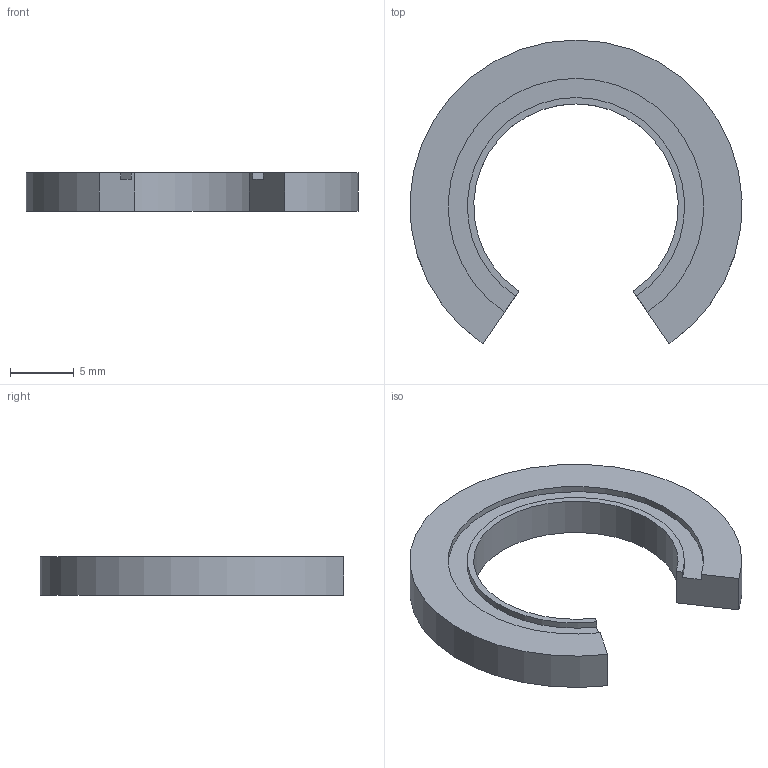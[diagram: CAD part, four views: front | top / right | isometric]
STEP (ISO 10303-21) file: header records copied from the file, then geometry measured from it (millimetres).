
FILE_DESCRIPTION(/* description */ (''),/* implementation_level */ '2;1');
FILE_NAME(/* name */ 'W:\WEBOVKY\Knecht\VD-OP\VD16-OP\VD16-OP.stp',/* time_stamp */ '2021-03-08T12:33:21+01:00',/* author */ ('mkorenek'),/* organization */ (''),/* preprocessor_version */ 'ST-DEVELOPER v18.1',/* originating_system */ 'Autodesk Inventor 2021',/* authorisation */ '');
FILE_SCHEMA (('AUTOMOTIVE_DESIGN { 1 0 10303 214 3 1 1 }'));
Length unit declared in the file: millimetre
Products named in the file (2): VD16-OP; VD16
Assembly tree (1 placements, depth 2):
  VD16-OP
    VD16
Bounding box: 25.98 x 23.78 x 3 mm (x, y, z)
Volume: 767.3 mm3; surface area: 931.8 mm2
Topology: 1 solids, 1 shells, 10 faces, 24 edges, 16 vertices
Faces by surface type: plane 6, cylinder 4
Entity records: 363 total; most frequent: DIRECTION 58, CARTESIAN_POINT 53, ORIENTED_EDGE 48, EDGE_CURVE 24, AXIS2_PLACEMENT_3D 21, LINE 16, VECTOR 16, VERTEX_POINT 16
